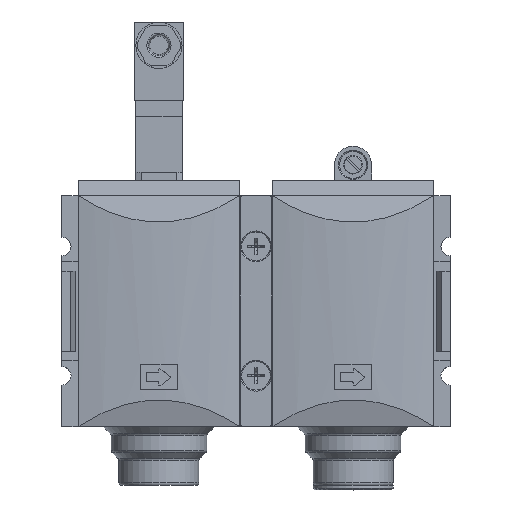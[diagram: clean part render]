
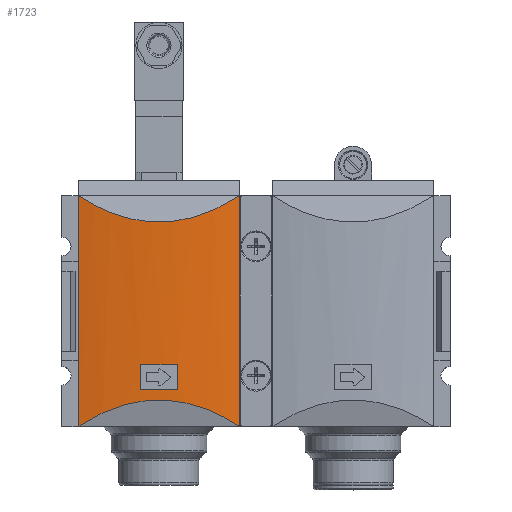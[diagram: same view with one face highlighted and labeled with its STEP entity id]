
A CAD part, top view. The second image highlights one B-rep face of the part: STEP entity #1723.
In plain terms, the highlighted cylindrical face has radius 150 mm (diameter 300 mm), a partial arc.
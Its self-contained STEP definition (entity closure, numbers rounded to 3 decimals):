
#1723 = ADVANCED_FACE( '', ( #3690, #3691 ), #3692, .T. );
#3690 = FACE_OUTER_BOUND( '', #5914, .T. );
#3691 = FACE_BOUND( '', #5915, .T. );
#3692 = CYLINDRICAL_SURFACE( '', #5916, 150. );
#5914 = EDGE_LOOP( '', ( #10486, #10487, #10488, #10489 ) );
#5915 = EDGE_LOOP( '', ( #10490, #10491, #10492, #10493 ) );
#5916 = AXIS2_PLACEMENT_3D( '', #10494, #10495, #10496 );
#10486 = ORIENTED_EDGE( '', *, *, #14417, .F. );
#10487 = ORIENTED_EDGE( '', *, *, #14418, .T. );
#10488 = ORIENTED_EDGE( '', *, *, #12903, .T. );
#10489 = ORIENTED_EDGE( '', *, *, #12631, .T. );
#10490 = ORIENTED_EDGE( '', *, *, #13891, .F. );
#10491 = ORIENTED_EDGE( '', *, *, #14419, .F. );
#10492 = ORIENTED_EDGE( '', *, *, #14420, .F. );
#10493 = ORIENTED_EDGE( '', *, *, #14421, .F. );
#10494 = CARTESIAN_POINT( '', ( 0., 37.5, -116.435 ) );
#10495 = DIRECTION( '', ( 0., 1., 0. ) );
#10496 = DIRECTION( '', ( 0., 0., -1. ) );
#12631 = EDGE_CURVE( '', #14918, #14917, #14920, .T. );
#12903 = EDGE_CURVE( '', #15413, #14918, #15414, .T. );
#13891 = EDGE_CURVE( '', #16993, #16994, #16995, .T. );
#14417 = EDGE_CURVE( '', #17696, #14917, #17697, .T. );
#14418 = EDGE_CURVE( '', #17696, #15413, #17698, .T. );
#14419 = EDGE_CURVE( '', #17699, #16993, #17700, .T. );
#14420 = EDGE_CURVE( '', #17701, #17699, #17702, .F. );
#14421 = EDGE_CURVE( '', #16994, #17701, #17703, .T. );
#14917 = VERTEX_POINT( '', #18265 );
#14918 = VERTEX_POINT( '', #18266 );
#14920 = ELLIPSE( '', #18269, 579.555, 150. );
#15413 = VERTEX_POINT( '', #18972 );
#15414 = LINE( '', #18973, #18974 );
#16993 = VERTEX_POINT( '', #21168 );
#16994 = VERTEX_POINT( '', #21169 );
#16995 = LINE( '', #21170, #21171 );
#17696 = VERTEX_POINT( '', #22145 );
#17697 = LINE( '', #22146, #22147 );
#17698 = ELLIPSE( '', #22148, 579.555, 150. );
#17699 = VERTEX_POINT( '', #22149 );
#17700 = CIRCLE( '', #22150, 150. );
#17701 = VERTEX_POINT( '', #22151 );
#17702 = LINE( '', #22152, #22153 );
#17703 = CIRCLE( '', #22154, 150. );
#18265 = CARTESIAN_POINT( '', ( 26.25, -37.5, 31.25 ) );
#18266 = CARTESIAN_POINT( '', ( -26.25, -37.5, 31.25 ) );
#18269 = AXIS2_PLACEMENT_3D( '', #22845, #22846, #22847 );
#18972 = CARTESIAN_POINT( '', ( -26.25, 37.5, 31.25 ) );
#18973 = CARTESIAN_POINT( '', ( -26.25, 37.5, 31.25 ) );
#18974 = VECTOR( '', #23195, 1000. );
#21168 = CARTESIAN_POINT( '', ( -6.1, -17.4, 33.441 ) );
#21169 = CARTESIAN_POINT( '', ( -6.1, -25.6, 33.441 ) );
#21170 = CARTESIAN_POINT( '', ( -6.1, 37.5, 33.441 ) );
#21171 = VECTOR( '', #24335, 1000. );
#22145 = CARTESIAN_POINT( '', ( 26.25, 37.5, 31.25 ) );
#22146 = CARTESIAN_POINT( '', ( 26.25, 37.5, 31.25 ) );
#22147 = VECTOR( '', #24872, 1000. );
#22148 = AXIS2_PLACEMENT_3D( '', #24873, #24874, #24875 );
#22149 = CARTESIAN_POINT( '', ( 6.1, -17.4, 33.441 ) );
#22150 = AXIS2_PLACEMENT_3D( '', #24876, #24877, #24878 );
#22151 = CARTESIAN_POINT( '', ( 6.1, -25.6, 33.441 ) );
#22152 = CARTESIAN_POINT( '', ( 6.1, 37.5, 33.441 ) );
#22153 = VECTOR( '', #24879, 1000. );
#22154 = AXIS2_PLACEMENT_3D( '', #24880, #24881, #24882 );
#22845 = CARTESIAN_POINT( '', ( 0., -588.669, -116.435 ) );
#22846 = DIRECTION( '', ( 0., 0.259, -0.966 ) );
#22847 = DIRECTION( '', ( 0., -0.966, -0.259 ) );
#23195 = DIRECTION( '', ( 0., -1., 0. ) );
#24335 = DIRECTION( '', ( 0., -1., 0. ) );
#24872 = DIRECTION( '', ( 0., -1., 0. ) );
#24873 = CARTESIAN_POINT( '', ( 0., 588.669, -116.435 ) );
#24874 = DIRECTION( '', ( 0., -0.259, -0.966 ) );
#24875 = DIRECTION( '', ( 0., -0.966, 0.259 ) );
#24876 = CARTESIAN_POINT( '', ( 0., -17.4, -116.435 ) );
#24877 = DIRECTION( '', ( 0., -1., 0. ) );
#24878 = DIRECTION( '', ( 0., 0., -1. ) );
#24879 = DIRECTION( '', ( 0., -1., 0. ) );
#24880 = CARTESIAN_POINT( '', ( 0., -25.6, -116.435 ) );
#24881 = DIRECTION( '', ( 0., 1., 0. ) );
#24882 = DIRECTION( '', ( 0., 0., 1. ) );
